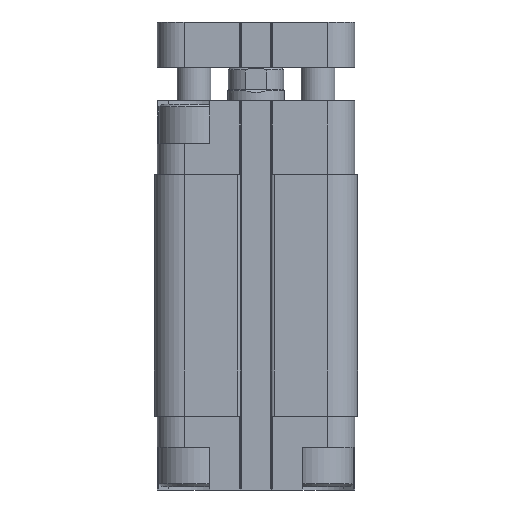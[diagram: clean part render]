
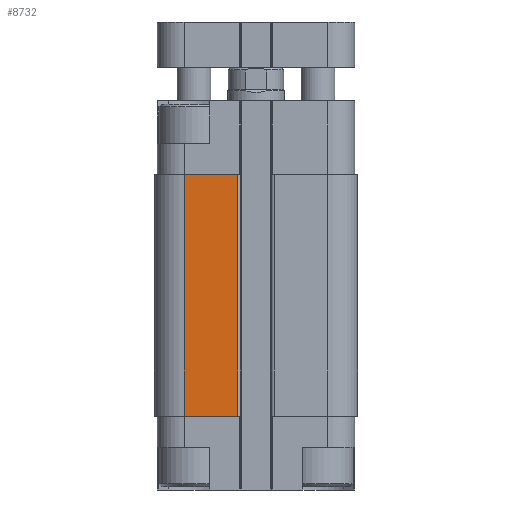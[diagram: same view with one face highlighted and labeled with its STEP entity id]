
A CAD part, front view. The second image highlights one B-rep face of the part: STEP entity #8732.
In plain terms, the highlighted planar face has unit normal (0, -1, 0).
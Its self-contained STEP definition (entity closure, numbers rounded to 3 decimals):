
#1529 = VERTEX_POINT ( 'NONE', #5400 ) ;
#1531 = VERTEX_POINT ( 'NONE', #5402 ) ;
#1550 = VERTEX_POINT ( 'NONE', #5421 ) ;
#1555 = VERTEX_POINT ( 'NONE', #5426 ) ;
#1584 = EDGE_CURVE ( 'NONE', #1531, #1529, #10374, .T. ) ;
#1626 = EDGE_CURVE ( 'NONE', #1550, #1531, #10446, .T. ) ;
#1627 = EDGE_CURVE ( 'NONE', #1555, #1529, #10448, .T. ) ;
#1628 = EDGE_CURVE ( 'NONE', #1555, #1550, #10450, .T. ) ;
#5400 = CARTESIAN_POINT ( 'NONE',  ( -3.225, -18., 42.8 ) ) ;
#5402 = CARTESIAN_POINT ( 'NONE',  ( -3.225, -18., 0. ) ) ;
#5421 = CARTESIAN_POINT ( 'NONE',  ( -12.75, -18., 0. ) ) ;
#5426 = CARTESIAN_POINT ( 'NONE',  ( -12.75, -18., 42.8 ) ) ;
#5453 = DIRECTION ( 'NONE',  ( 0., 0., 1. ) ) ;
#5456 = CARTESIAN_POINT ( 'NONE',  ( -3.225, -18., 42.8 ) ) ;
#5586 = ORIENTED_EDGE ( 'NONE', *, *, #1626, .T. ) ;
#5587 = ORIENTED_EDGE ( 'NONE', *, *, #1584, .T. ) ;
#5588 = ORIENTED_EDGE ( 'NONE', *, *, #1627, .F. ) ;
#5589 = ORIENTED_EDGE ( 'NONE', *, *, #1628, .T. ) ;
#5825 = EDGE_LOOP ( 'NONE', ( #5586, #5587, #5588, #5589 ) ) ;
#8732 = ADVANCED_FACE ( 'NONE', ( #11797 ), #12438, .F. ) ;
#10371 = VECTOR ( 'NONE', #5453, 1000. ) ;
#10374 = LINE ( 'NONE', #5456, #10371 ) ;
#10446 = LINE ( 'NONE', #13096, #10449 ) ;
#10448 = LINE ( 'NONE', #13098, #10451 ) ;
#10449 = VECTOR ( 'NONE', #13097, 1000. ) ;
#10450 = LINE ( 'NONE', #13100, #10453 ) ;
#10451 = VECTOR ( 'NONE', #13099, 1000. ) ;
#10453 = VECTOR ( 'NONE', #13101, 1000. ) ;
#11797 = FACE_OUTER_BOUND ( 'NONE', #5825, .T. ) ;
#12137 = AXIS2_PLACEMENT_3D ( 'NONE', #12433, #12441, #12442 ) ;
#12433 = CARTESIAN_POINT ( 'NONE',  ( -12.75, -18., 42.8 ) ) ;
#12438 = PLANE ( 'NONE',  #12137 ) ;
#12441 = DIRECTION ( 'NONE',  ( 0., 1., 0. ) ) ;
#12442 = DIRECTION ( 'NONE',  ( 0., 0., 1. ) ) ;
#13096 = CARTESIAN_POINT ( 'NONE',  ( -12.75, -18., 0. ) ) ;
#13097 = DIRECTION ( 'NONE',  ( 1., 0., 0. ) ) ;
#13098 = CARTESIAN_POINT ( 'NONE',  ( -12.75, -18., 42.8 ) ) ;
#13099 = DIRECTION ( 'NONE',  ( 1., 0., 0. ) ) ;
#13100 = CARTESIAN_POINT ( 'NONE',  ( -12.75, -18., 42.8 ) ) ;
#13101 = DIRECTION ( 'NONE',  ( 0., 0., -1. ) ) ;
